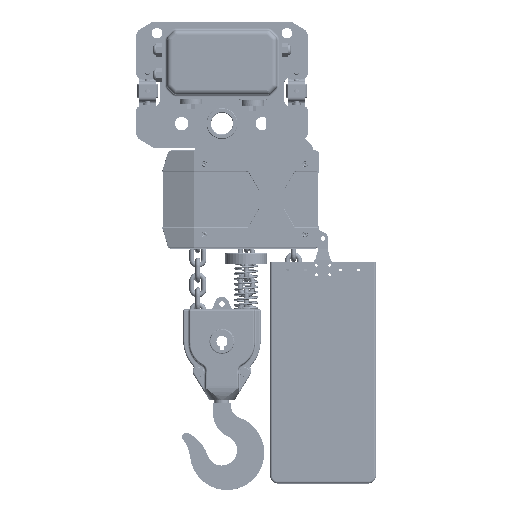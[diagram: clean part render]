
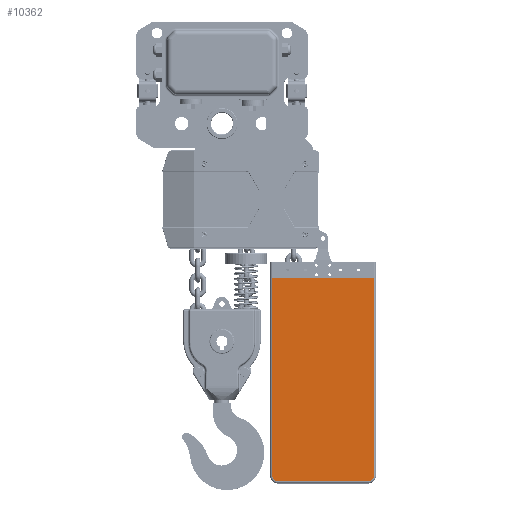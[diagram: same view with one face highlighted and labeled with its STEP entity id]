
A CAD part, top view. The second image highlights one B-rep face of the part: STEP entity #10362.
In plain terms, the highlighted planar face has unit normal (0, 0, 1).
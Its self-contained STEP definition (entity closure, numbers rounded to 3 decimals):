
#3987=CIRCLE('',#102471,11.);
#3988=CIRCLE('',#102472,11.);
#10362=ADVANCED_FACE('',(#18487),#16267,.T.);
#16267=PLANE('',#102473);
#18487=FACE_OUTER_BOUND('',#23643,.T.);
#23643=EDGE_LOOP('',(#34063,#34064,#34065,#34066,#34067,#34068));
#34063=ORIENTED_EDGE('',*,*,#72248,.T.);
#34064=ORIENTED_EDGE('',*,*,#72249,.T.);
#34065=ORIENTED_EDGE('',*,*,#72250,.T.);
#34066=ORIENTED_EDGE('',*,*,#72251,.T.);
#34067=ORIENTED_EDGE('',*,*,#72252,.T.);
#34068=ORIENTED_EDGE('',*,*,#72253,.T.);
#63002=VERTEX_POINT('',#143300);
#63003=VERTEX_POINT('',#143301);
#63004=VERTEX_POINT('',#143303);
#63005=VERTEX_POINT('',#143305);
#63006=VERTEX_POINT('',#143307);
#63007=VERTEX_POINT('',#143309);
#72248=EDGE_CURVE('',#63002,#63003,#86730,.T.);
#72249=EDGE_CURVE('',#63003,#63004,#86731,.T.);
#72250=EDGE_CURVE('',#63004,#63005,#86732,.T.);
#72251=EDGE_CURVE('',#63005,#63006,#3987,.T.);
#72252=EDGE_CURVE('',#63006,#63007,#86733,.T.);
#72253=EDGE_CURVE('',#63007,#63002,#3988,.T.);
#86730=LINE('',#143299,#94235);
#86731=LINE('',#143302,#94236);
#86732=LINE('',#143304,#94237);
#86733=LINE('',#143308,#94238);
#94235=VECTOR('',#111806,1.);
#94236=VECTOR('',#111807,1.);
#94237=VECTOR('',#111808,1.);
#94238=VECTOR('',#111811,1.);
#102471=AXIS2_PLACEMENT_3D('',#143306,#111809,#111810);
#102472=AXIS2_PLACEMENT_3D('',#143310,#111812,#111813);
#102473=AXIS2_PLACEMENT_3D('',#143311,#111814,#111815);
#111806=DIRECTION('',(0.,1.,0.));
#111807=DIRECTION('',(-1.,0.,0.));
#111808=DIRECTION('',(0.,-1.,0.));
#111809=DIRECTION('',(0.,0.,1.));
#111810=DIRECTION('',(1.,0.,0.));
#111811=DIRECTION('',(1.,0.,0.));
#111812=DIRECTION('',(0.,0.,1.));
#111813=DIRECTION('',(1.,0.,0.));
#111814=DIRECTION('',(0.,0.,1.));
#111815=DIRECTION('',(1.,0.,0.));
#143299=CARTESIAN_POINT('',(1920.462,56.396,196.375));
#143300=CARTESIAN_POINT('',(1920.462,-249.604,196.375));
#143301=CARTESIAN_POINT('',(1920.462,143.396,196.375));
#143302=CARTESIAN_POINT('',(1744.812,143.396,196.375));
#143303=CARTESIAN_POINT('',(1718.662,143.396,196.375));
#143304=CARTESIAN_POINT('',(1718.662,56.396,196.375));
#143305=CARTESIAN_POINT('',(1718.662,-249.604,196.375));
#143306=CARTESIAN_POINT('',(1729.662,-249.604,196.375));
#143307=CARTESIAN_POINT('',(1729.662,-260.604,196.375));
#143308=CARTESIAN_POINT('',(1909.462,-260.604,196.375));
#143309=CARTESIAN_POINT('',(1909.462,-260.604,196.375));
#143310=CARTESIAN_POINT('',(1909.462,-249.604,196.375));
#143311=CARTESIAN_POINT('',(1744.812,56.396,196.375));
